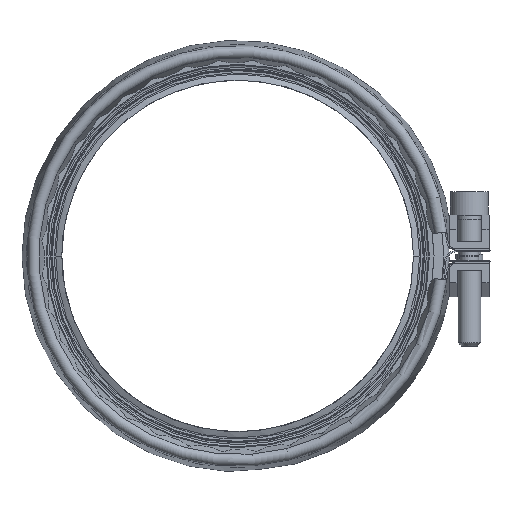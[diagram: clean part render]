
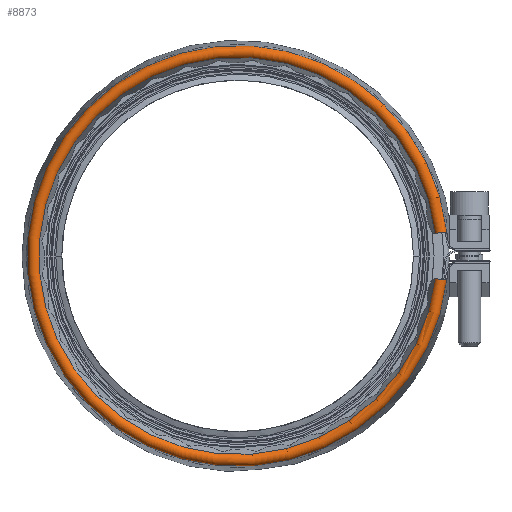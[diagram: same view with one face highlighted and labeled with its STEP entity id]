
A CAD part, left-side view. The second image highlights one B-rep face of the part: STEP entity #8873.
In plain terms, the highlighted toroidal (fillet/blend) face has major radius 70.011 mm and minor radius 2.1 mm.
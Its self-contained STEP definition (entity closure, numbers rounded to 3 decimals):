
#156=TOROIDAL_SURFACE('',#9580,70.011,2.1);
#371=B_SPLINE_CURVE_WITH_KNOTS('',3,(#14204,#14205,#14206,#14207,#14208,
#14209,#14210,#14211,#14212,#14213),.UNSPECIFIED.,.F.,.F.,(4,2,2,2,4),(-0.327,
-0.272,-0.221,-0.17,-0.165),
 .UNSPECIFIED.);
#372=B_SPLINE_CURVE_WITH_KNOTS('',3,(#14215,#14216,#14217,#14218,#14219,
#14220,#14221,#14222,#14223,#14224),.UNSPECIFIED.,.F.,.F.,(4,2,2,2,4),(-1.727,
-1.702,-1.653,-1.597,-1.578),
 .UNSPECIFIED.);
#553=CIRCLE('',#9556,72.097);
#572=CIRCLE('',#9581,68.064);
#573=CIRCLE('',#9582,2.1);
#574=CIRCLE('',#9583,2.1);
#949=FACE_OUTER_BOUND('',#1436,.T.);
#1436=EDGE_LOOP('',(#6086,#6087,#6088,#6089,#6090,#6091));
#3365=VERTEX_POINT('',#14042);
#3366=VERTEX_POINT('',#14043);
#3396=VERTEX_POINT('',#14199);
#3397=VERTEX_POINT('',#14200);
#3398=VERTEX_POINT('',#14202);
#3399=VERTEX_POINT('',#14214);
#4378=EDGE_CURVE('',#3365,#3366,#553,.T.);
#4416=EDGE_CURVE('',#3396,#3397,#572,.T.);
#4417=EDGE_CURVE('',#3398,#3397,#573,.T.);
#4418=EDGE_CURVE('',#3398,#3366,#371,.T.);
#4419=EDGE_CURVE('',#3365,#3399,#372,.T.);
#4420=EDGE_CURVE('',#3399,#3396,#574,.T.);
#6086=ORIENTED_EDGE('',*,*,#4416,.T.);
#6087=ORIENTED_EDGE('',*,*,#4417,.F.);
#6088=ORIENTED_EDGE('',*,*,#4418,.T.);
#6089=ORIENTED_EDGE('',*,*,#4378,.F.);
#6090=ORIENTED_EDGE('',*,*,#4419,.T.);
#6091=ORIENTED_EDGE('',*,*,#4420,.T.);
#8873=ADVANCED_FACE('',(#949),#156,.T.);
#9556=AXIS2_PLACEMENT_3D('',#14044,#10987,#10988);
#9580=AXIS2_PLACEMENT_3D('',#14198,#11044,#11045);
#9581=AXIS2_PLACEMENT_3D('',#14201,#11046,#11047);
#9582=AXIS2_PLACEMENT_3D('',#14203,#11048,#11049);
#9583=AXIS2_PLACEMENT_3D('',#14225,#11050,#11051);
#10987=DIRECTION('center_axis',(1.,0.,0.));
#10988=DIRECTION('ref_axis',(0.,1.,0.));
#11044=DIRECTION('center_axis',(1.,0.,0.));
#11045=DIRECTION('ref_axis',(0.,-1.,0.));
#11046=DIRECTION('center_axis',(1.,0.,0.));
#11047=DIRECTION('ref_axis',(0.,1.,0.));
#11048=DIRECTION('center_axis',(0.,-0.114,
-0.993));
#11049=DIRECTION('ref_axis',(-0.668,-0.74,0.085));
#11050=DIRECTION('center_axis',(0.,0.114,-0.993));
#11051=DIRECTION('ref_axis',(-0.668,-0.74,-0.085));
#14042=CARTESIAN_POINT('',(-31.336,157.932,-137.211));
#14043=CARTESIAN_POINT('',(-31.336,157.932,-121.869));
#14044=CARTESIAN_POINT('Origin',(-31.336,229.62,-129.54));
#14198=CARTESIAN_POINT('Origin',(-31.098,229.62,-129.54));
#14199=CARTESIAN_POINT('',(-31.885,162.,-137.301));
#14200=CARTESIAN_POINT('',(-31.885,162.,-121.779));
#14201=CARTESIAN_POINT('Origin',(-31.885,229.62,-129.54));
#14202=CARTESIAN_POINT('',(-32.5,158.513,-121.379));
#14203=CARTESIAN_POINT('Origin',(-31.098,160.066,-121.557));
#14204=CARTESIAN_POINT('Ctrl Pts',(-32.5,158.513,-121.379));
#14205=CARTESIAN_POINT('Ctrl Pts',(-32.378,158.404,-121.366));
#14206=CARTESIAN_POINT('Ctrl Pts',(-32.245,158.309,-121.37));
#14207=CARTESIAN_POINT('Ctrl Pts',(-31.971,158.152,-121.427));
#14208=CARTESIAN_POINT('Ctrl Pts',(-31.836,158.092,-121.477));
#14209=CARTESIAN_POINT('Ctrl Pts',(-31.58,157.997,-121.627));
#14210=CARTESIAN_POINT('Ctrl Pts',(-31.462,157.964,-121.724));
#14211=CARTESIAN_POINT('Ctrl Pts',(-31.353,157.936,-121.85));
#14212=CARTESIAN_POINT('Ctrl Pts',(-31.345,157.934,-121.859));
#14213=CARTESIAN_POINT('Ctrl Pts',(-31.336,157.932,-121.869));
#14214=CARTESIAN_POINT('',(-32.5,158.513,-137.701));
#14215=CARTESIAN_POINT('Ctrl Pts',(-31.336,157.932,-137.211));
#14216=CARTESIAN_POINT('Ctrl Pts',(-31.389,157.945,-137.274));
#14217=CARTESIAN_POINT('Ctrl Pts',(-31.446,157.96,-137.332));
#14218=CARTESIAN_POINT('Ctrl Pts',(-31.628,158.013,-137.488));
#14219=CARTESIAN_POINT('Ctrl Pts',(-31.762,158.06,-137.567));
#14220=CARTESIAN_POINT('Ctrl Pts',(-32.057,158.196,-137.681));
#14221=CARTESIAN_POINT('Ctrl Pts',(-32.212,158.286,-137.707));
#14222=CARTESIAN_POINT('Ctrl Pts',(-32.406,158.432,-137.709));
#14223=CARTESIAN_POINT('Ctrl Pts',(-32.454,158.471,-137.706));
#14224=CARTESIAN_POINT('Ctrl Pts',(-32.5,158.513,-137.701));
#14225=CARTESIAN_POINT('Origin',(-31.098,160.066,-137.523));
